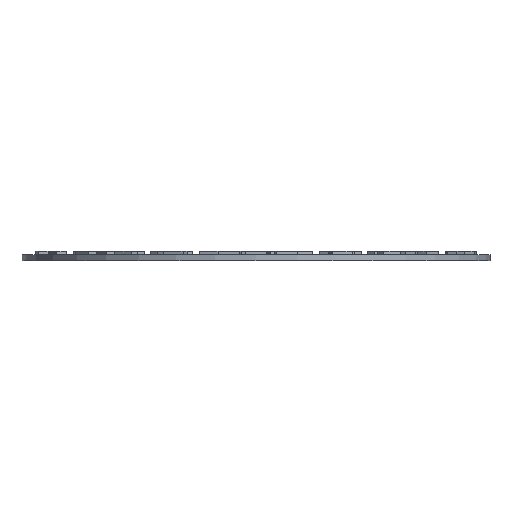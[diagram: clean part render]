
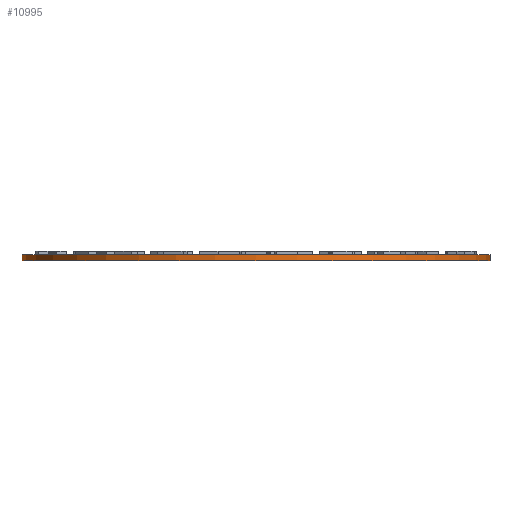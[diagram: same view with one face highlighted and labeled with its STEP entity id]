
A CAD part, front view. The second image highlights one B-rep face of the part: STEP entity #10995.
In plain terms, the highlighted cylindrical face has radius 66 mm (diameter 132 mm), a full revolution.
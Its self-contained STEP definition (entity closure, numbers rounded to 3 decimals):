
#10968=CARTESIAN_POINT('',(0.0,0.0,0.0));
#10969=DIRECTION('',(0.0,0.0,1.0));
#10970=DIRECTION('',(-1.0,0.0,0.0));
#10971=AXIS2_PLACEMENT_3D('',#10968,#10969,#10970);
#10972=CYLINDRICAL_SURFACE('',#10971,66.0);
#10973=CARTESIAN_POINT('',(66.0,0.,1.75));
#10974=VERTEX_POINT('',#10973);
#10975=CARTESIAN_POINT('',(0.0,0.0,1.75));
#10976=DIRECTION('',(0.0,0.0,-1.0));
#10977=DIRECTION('',(-1.0,0.0,0.0));
#10978=AXIS2_PLACEMENT_3D('',#10975,#10976,#10977);
#10979=CIRCLE('',#10978,66.0);
#10980=EDGE_CURVE('',#10974,#10974,#10979,.T.);
#10981=ORIENTED_EDGE('',*,*,#10980,.T.);
#10982=EDGE_LOOP('',(#10981));
#10983=FACE_OUTER_BOUND('',#10982,.T.);
#10984=CARTESIAN_POINT('',(66.0,0.,0.0));
#10985=VERTEX_POINT('',#10984);
#10986=CARTESIAN_POINT('',(0.0,0.0,0.0));
#10987=DIRECTION('',(0.0,0.0,-1.0));
#10988=DIRECTION('',(-1.0,0.0,0.0));
#10989=AXIS2_PLACEMENT_3D('',#10986,#10987,#10988);
#10990=CIRCLE('',#10989,66.0);
#10991=EDGE_CURVE('',#10985,#10985,#10990,.T.);
#10992=ORIENTED_EDGE('',*,*,#10991,.F.);
#10993=EDGE_LOOP('',(#10992));
#10994=FACE_BOUND('',#10993,.T.);
#10995=ADVANCED_FACE('',(#10983,#10994),#10972,.T.);
